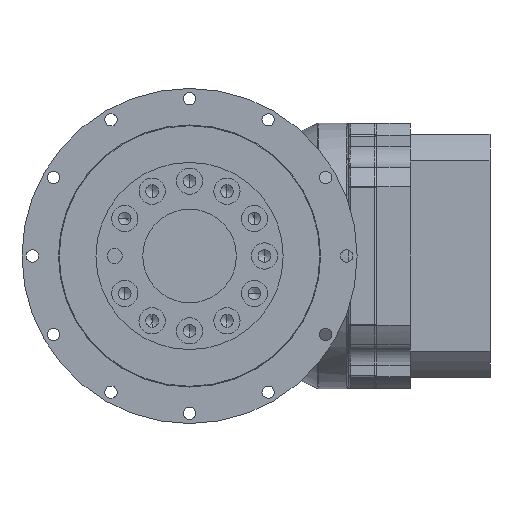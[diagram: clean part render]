
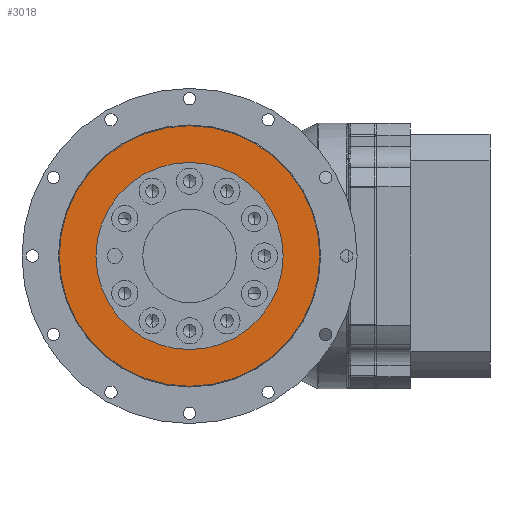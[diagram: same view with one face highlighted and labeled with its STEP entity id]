
A CAD part, left-side view. The second image highlights one B-rep face of the part: STEP entity #3018.
In plain terms, the highlighted planar face has unit normal (-1, 0, 0).
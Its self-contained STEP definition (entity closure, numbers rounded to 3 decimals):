
#166 = ORIENTED_EDGE ( 'NONE', *, *, #6443, .F. ) ;
#683 = VERTEX_POINT ( 'NONE', #15044 ) ;
#1678 = CARTESIAN_POINT ( 'NONE',  ( -63., 0., -69.6 ) ) ;
#1713 = VERTEX_POINT ( 'NONE', #6163 ) ;
#1791 = AXIS2_PLACEMENT_3D ( 'NONE', #10668, #10662, #10645 ) ;
#1879 = AXIS2_PLACEMENT_3D ( 'NONE', #5227, #5210, #5189 ) ;
#2290 = FACE_OUTER_BOUND ( 'NONE', #10447, .T. ) ;
#2836 = EDGE_CURVE ( 'NONE', #6868, #1713, #7992, .T. ) ;
#2942 = EDGE_CURVE ( 'NONE', #16957, #683, #14376, .T. ) ;
#3018 = ADVANCED_FACE ( 'NONE', ( #14089, #2290 ), #10041, .T. ) ;
#4067 = AXIS2_PLACEMENT_3D ( 'NONE', #11645, #11631, #11610 ) ;
#4573 = EDGE_LOOP ( 'NONE', ( #6976, #12846 ) ) ;
#5024 = DIRECTION ( 'NONE',  ( 0., 0., -1. ) ) ;
#5040 = DIRECTION ( 'NONE',  ( 1., 0., 0. ) ) ;
#5063 = CARTESIAN_POINT ( 'NONE',  ( -63., 0., 0. ) ) ;
#5189 = DIRECTION ( 'NONE',  ( 0., 0., -1. ) ) ;
#5210 = DIRECTION ( 'NONE',  ( 1., 0., 0. ) ) ;
#5227 = CARTESIAN_POINT ( 'NONE',  ( -63., 0., 0. ) ) ;
#6163 = CARTESIAN_POINT ( 'NONE',  ( -63., 0., 69.6 ) ) ;
#6435 = EDGE_CURVE ( 'NONE', #683, #16957, #17968, .T. ) ;
#6443 = EDGE_CURVE ( 'NONE', #1713, #6868, #12950, .T. ) ;
#6868 = VERTEX_POINT ( 'NONE', #1678 ) ;
#6976 = ORIENTED_EDGE ( 'NONE', *, *, #2942, .T. ) ;
#7992 = CIRCLE ( 'NONE', #4067, 69.6 ) ;
#9890 = DIRECTION ( 'NONE',  ( 0., 0., 1. ) ) ;
#9892 = DIRECTION ( 'NONE',  ( -1., 0., 0. ) ) ;
#10023 = CARTESIAN_POINT ( 'NONE',  ( -63., 69.6, 0. ) ) ;
#10041 = PLANE ( 'NONE',  #10306 ) ;
#10306 = AXIS2_PLACEMENT_3D ( 'NONE', #10023, #9892, #9890 ) ;
#10447 = EDGE_LOOP ( 'NONE', ( #13539, #166 ) ) ;
#10645 = DIRECTION ( 'NONE',  ( 0., 0., -1. ) ) ;
#10662 = DIRECTION ( 'NONE',  ( 1., 0., 0. ) ) ;
#10668 = CARTESIAN_POINT ( 'NONE',  ( -63., 0., 0. ) ) ;
#11610 = DIRECTION ( 'NONE',  ( 0., 0., -1. ) ) ;
#11631 = DIRECTION ( 'NONE',  ( 1., 0., 0. ) ) ;
#11645 = CARTESIAN_POINT ( 'NONE',  ( -63., 0., 0. ) ) ;
#12515 = AXIS2_PLACEMENT_3D ( 'NONE', #5063, #5040, #5024 ) ;
#12846 = ORIENTED_EDGE ( 'NONE', *, *, #6435, .T. ) ;
#12950 = CIRCLE ( 'NONE', #12515, 69.6 ) ;
#12980 = CARTESIAN_POINT ( 'NONE',  ( -63., 0., -50. ) ) ;
#13539 = ORIENTED_EDGE ( 'NONE', *, *, #2836, .F. ) ;
#14089 = FACE_BOUND ( 'NONE', #4573, .T. ) ;
#14376 = CIRCLE ( 'NONE', #1791, 50. ) ;
#15044 = CARTESIAN_POINT ( 'NONE',  ( -63., 0., 50. ) ) ;
#16957 = VERTEX_POINT ( 'NONE', #12980 ) ;
#17968 = CIRCLE ( 'NONE', #1879, 50. ) ;
